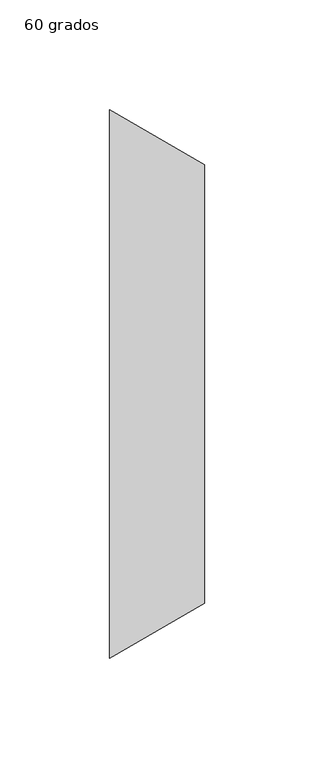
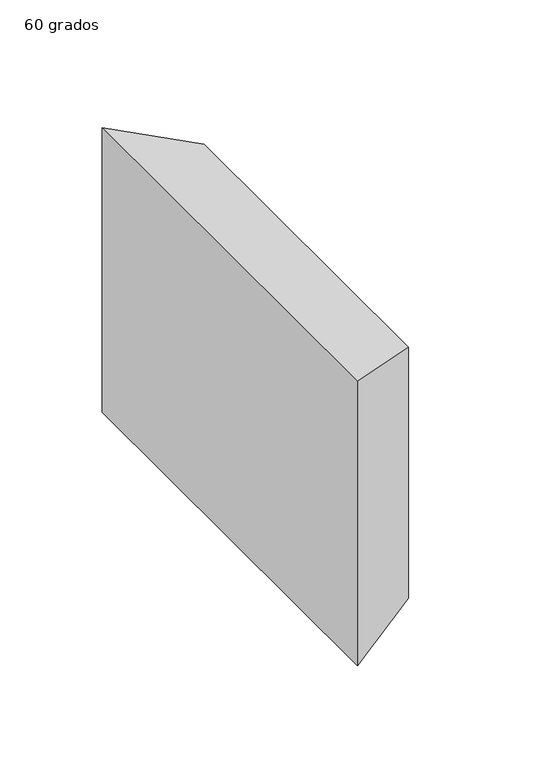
"""IFC4 building model written with IfcOpenShell, lengths in millimetres: duct fitting geometry, M_Transición rectangular - Ángulo : 60 grados."""

from ifc_helpers import new_model, si_unit, origin, place, context, project, spatial, faceted_brep, source, transform, mapped, element, save


def duct_fitting_60_grados_6bb5228d(model_context):
    return source(origin(), model_context, "Body", "Brep", [
        faceted_brep([(43.3012702, -100.0, 75.0), (43.3012702, -100.0, -75.0), (43.3012702, 100.0, -75.0), (43.3012702, 100.0, 75.0), (0.0, -125.0, 85.0), (0.0, 125.0, 85.0), (0.0, 125.0, -85.0), (0.0, -125.0, -85.0)], [[[0, 1, 2, 3]], [[4, 5, 6, 7]], [[4, 7, 1, 0]], [[7, 6, 2, 1]], [[6, 5, 3, 2]], [[5, 4, 0, 3]]]),
    ])


if __name__ == "__main__":
    model = new_model("IFC4")
    model_context = context("Model", 3, world=origin())
    ifc_project = project(units=[si_unit("LENGTHUNIT", "METRE", prefix="MILLI")], contexts=[model_context])
    site = spatial("IfcSite", under=ifc_project)
    building = spatial("IfcBuilding", under=site)
    placement = place(None, origin())
    duct_fitting_60_grados_shape = duct_fitting_60_grados_6bb5228d(model_context)
    element("IfcDuctFitting", 1, ObjectType="M_Transición rectangular - Ángulo : 60 grados", at=placement, inside=building, context=model_context, shape_type="MappedRepresentation", body=[
        mapped(duct_fitting_60_grados_shape, transform((0.0, 0.0, 0.0), x_axis=(1.0, 0.0, 0.0), y_axis=(0.0, 1.0, 0.0), z_axis=(0.0, 0.0, 1.0))),
    ])
    save(model, "model.ifc")
